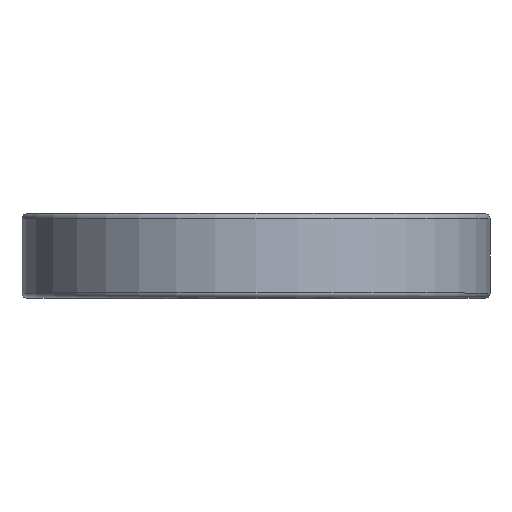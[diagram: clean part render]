
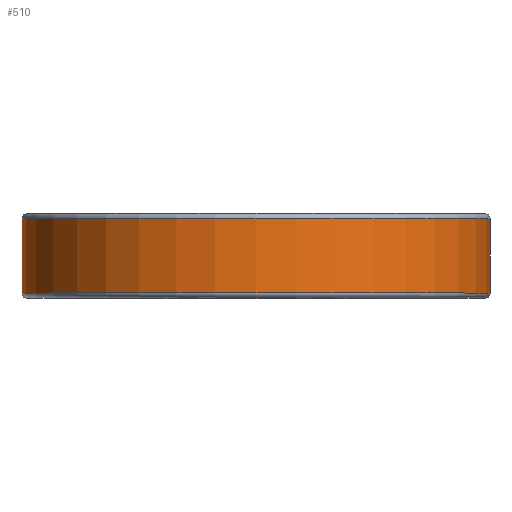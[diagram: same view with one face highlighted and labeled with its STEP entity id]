
A CAD part, top view. The second image highlights one B-rep face of the part: STEP entity #510.
In plain terms, the highlighted cylindrical face has radius 36 mm (diameter 72 mm), a full revolution.
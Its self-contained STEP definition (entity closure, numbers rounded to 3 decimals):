
#173=CYLINDRICAL_SURFACE('',#553,36.);
#188=FACE_BOUND('',#255,.T.);
#218=FACE_OUTER_BOUND('',#254,.T.);
#254=EDGE_LOOP('',(#409));
#255=EDGE_LOOP('',(#410));
#313=CIRCLE('',#552,36.);
#314=CIRCLE('',#554,36.);
#344=VERTEX_POINT('',#863);
#345=VERTEX_POINT('',#866);
#375=EDGE_CURVE('',#344,#344,#313,.T.);
#376=EDGE_CURVE('',#345,#345,#314,.T.);
#409=ORIENTED_EDGE('',*,*,#376,.F.);
#410=ORIENTED_EDGE('',*,*,#375,.F.);
#510=ADVANCED_FACE('',(#218,#188),#173,.T.);
#552=AXIS2_PLACEMENT_3D('',#864,#664,#665);
#553=AXIS2_PLACEMENT_3D('',#865,#666,#667);
#554=AXIS2_PLACEMENT_3D('',#867,#668,#669);
#664=DIRECTION('center_axis',(0.,-1.,0.));
#665=DIRECTION('ref_axis',(0.,0.,-1.));
#666=DIRECTION('center_axis',(0.,1.,0.));
#667=DIRECTION('ref_axis',(0.,0.,1.));
#668=DIRECTION('center_axis',(0.,1.,0.));
#669=DIRECTION('ref_axis',(0.,0.,-1.));
#863=CARTESIAN_POINT('',(0.,-12.22,36.));
#864=CARTESIAN_POINT('Origin',(0.,-12.22,0.));
#865=CARTESIAN_POINT('Origin',(0.,-6.5,0.));
#866=CARTESIAN_POINT('',(0.,-0.78,36.));
#867=CARTESIAN_POINT('Origin',(0.,-0.78,0.));
